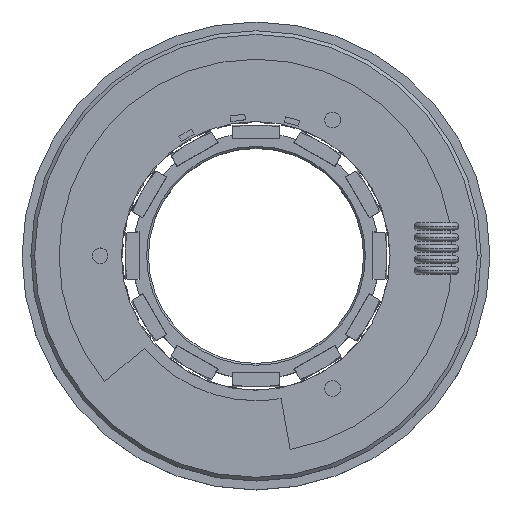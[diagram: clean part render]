
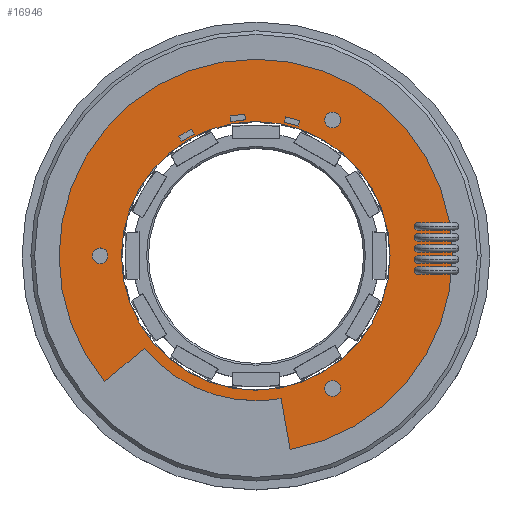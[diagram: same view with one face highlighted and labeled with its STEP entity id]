
A CAD part, top view. The second image highlights one B-rep face of the part: STEP entity #16946.
In plain terms, the highlighted planar face has unit normal (0, 0, 1) as drawn and (0, 1, 0) by its records, which use the part's own axes.
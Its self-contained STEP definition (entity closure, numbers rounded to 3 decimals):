
#16456=CARTESIAN_POINT('',(36.008,2.,-20.812));
#16457=DIRECTION('',(0.,-1.,0.));
#16458=DIRECTION('',(1.,0.,0.));
#16459=AXIS2_PLACEMENT_3D('',#16456,#16457,#16458);
#16461=CARTESIAN_POINT('',(36.008,2.,-20.812));
#16462=DIRECTION('',(0.,-1.,0.));
#16463=DIRECTION('',(-1.,0.,0.));
#16464=AXIS2_PLACEMENT_3D('',#16461,#16462,#16463);
#16466=CARTESIAN_POINT('',(-36.874,2.,-20.812));
#16467=DIRECTION('',(0.,-1.,0.));
#16468=DIRECTION('',(1.,0.,0.));
#16469=AXIS2_PLACEMENT_3D('',#16466,#16467,#16468);
#16471=CARTESIAN_POINT('',(-36.874,2.,-20.812));
#16472=DIRECTION('',(0.,-1.,0.));
#16473=DIRECTION('',(-1.,0.,0.));
#16474=AXIS2_PLACEMENT_3D('',#16471,#16472,#16473);
#16476=CARTESIAN_POINT('',(0.,2.,42.311));
#16477=DIRECTION('',(0.,-1.,0.));
#16478=DIRECTION('',(1.,0.,0.));
#16479=AXIS2_PLACEMENT_3D('',#16476,#16477,#16478);
#16481=CARTESIAN_POINT('',(0.,2.,42.311));
#16482=DIRECTION('',(0.,-1.,0.));
#16483=DIRECTION('',(-1.,0.,0.));
#16484=AXIS2_PLACEMENT_3D('',#16481,#16482,#16483);
#16486=CARTESIAN_POINT('',(0.,2.,0.074));
#16487=DIRECTION('',(0.,1.,0.));
#16488=DIRECTION('',(0.985,0.,-0.175));
#16489=AXIS2_PLACEMENT_3D('',#16486,#16487,#16488);
#16491=DIRECTION('',(0.985,0.,-0.175));
#16492=VECTOR('',#16491,14.079);
#16493=CARTESIAN_POINT('',(38.69,2.,-6.803));
#16494=LINE('',#16493,#16492);
#16495=CARTESIAN_POINT('',(0.,2.,0.074));
#16496=DIRECTION('',(0.,1.,0.));
#16497=DIRECTION('',(1.,0.,-0.002));
#16498=AXIS2_PLACEMENT_3D('',#16495,#16496,#16497);
#16500=CARTESIAN_POINT('',(0.,2.,0.074));
#16501=DIRECTION('',(0.,1.,0.));
#16502=DIRECTION('',(0.639,0.,0.769));
#16503=AXIS2_PLACEMENT_3D('',#16500,#16501,#16502);
#16505=DIRECTION('',(-0.639,0.,-0.769));
#16506=VECTOR('',#16505,14.079);
#16507=CARTESIAN_POINT('',(34.126,2.,41.114));
#16508=LINE('',#16507,#16506);
#16509=CARTESIAN_POINT('',(0.,2.,0.074));
#16510=DIRECTION('',(0.,-1.,0.));
#16511=DIRECTION('',(1.,0.,0.));
#16512=AXIS2_PLACEMENT_3D('',#16509,#16510,#16511);
#16514=CARTESIAN_POINT('',(0.,2.,0.074));
#16515=DIRECTION('',(0.,-1.,0.));
#16516=DIRECTION('',(-1.,0.,0.));
#16517=AXIS2_PLACEMENT_3D('',#16514,#16515,#16516);
#16519=DIRECTION('',(0.5,0.,0.866));
#16520=VECTOR('',#16519,4.);
#16521=CARTESIAN_POINT('',(-34.385,2.,17.543));
#16522=LINE('',#16521,#16520);
#16523=DIRECTION('',(0.866,0.,-0.5));
#16524=VECTOR('',#16523,1.55);
#16525=CARTESIAN_POINT('',(-32.385,2.,21.007));
#16526=LINE('',#16525,#16524);
#16527=DIRECTION('',(-0.5,0.,-0.866));
#16528=VECTOR('',#16527,4.);
#16529=CARTESIAN_POINT('',(-31.043,2.,20.232));
#16530=LINE('',#16529,#16528);
#16531=DIRECTION('',(-0.866,0.,0.5));
#16532=VECTOR('',#16531,1.55);
#16533=CARTESIAN_POINT('',(-33.043,2.,16.768));
#16534=LINE('',#16533,#16532);
#16535=DIRECTION('',(0.131,0.,0.991));
#16536=VECTOR('',#16535,4.);
#16537=CARTESIAN_POINT('',(-38.481,2.,3.049));
#16538=LINE('',#16537,#16536);
#16539=DIRECTION('',(0.991,0.,-0.131));
#16540=VECTOR('',#16539,1.55);
#16541=CARTESIAN_POINT('',(-37.959,2.,7.015));
#16542=LINE('',#16541,#16540);
#16543=DIRECTION('',(-0.131,0.,-0.991));
#16544=VECTOR('',#16543,4.);
#16545=CARTESIAN_POINT('',(-36.422,2.,6.812));
#16546=LINE('',#16545,#16544);
#16547=DIRECTION('',(-0.991,0.,0.131));
#16548=VECTOR('',#16547,1.55);
#16549=CARTESIAN_POINT('',(-36.945,2.,2.847));
#16550=LINE('',#16549,#16548);
#16551=DIRECTION('',(-0.259,0.,0.966));
#16552=VECTOR('',#16551,4.);
#16553=CARTESIAN_POINT('',(-36.719,2.,-11.909));
#16554=LINE('',#16553,#16552);
#16555=DIRECTION('',(0.966,0.,0.259));
#16556=VECTOR('',#16555,1.55);
#16557=CARTESIAN_POINT('',(-37.754,2.,-8.046));
#16558=LINE('',#16557,#16556);
#16559=DIRECTION('',(0.259,0.,-0.966));
#16560=VECTOR('',#16559,4.);
#16561=CARTESIAN_POINT('',(-36.257,2.,-7.644));
#16562=LINE('',#16561,#16560);
#16563=DIRECTION('',(-0.966,0.,-0.259));
#16564=VECTOR('',#16563,1.55);
#16565=CARTESIAN_POINT('',(-35.222,2.,-11.508));
#16566=LINE('',#16565,#16564);
#16733=CARTESIAN_POINT('',(38.143,2.,-20.812));
#16734=CARTESIAN_POINT('',(33.873,2.,-20.812));
#16735=VERTEX_POINT('',#16733);
#16736=VERTEX_POINT('',#16734);
#16737=CARTESIAN_POINT('',(-34.739,2.,-20.812));
#16738=CARTESIAN_POINT('',(-39.009,2.,-20.812));
#16739=VERTEX_POINT('',#16737);
#16740=VERTEX_POINT('',#16738);
#16741=CARTESIAN_POINT('',(2.135,2.,42.311));
#16742=CARTESIAN_POINT('',(-2.135,2.,42.311));
#16743=VERTEX_POINT('',#16741);
#16744=VERTEX_POINT('',#16742);
#16745=CARTESIAN_POINT('',(52.551,2.,-9.267));
#16746=CARTESIAN_POINT('',(34.126,2.,41.114));
#16747=VERTEX_POINT('',#16745);
#16748=VERTEX_POINT('',#16746);
#16749=CARTESIAN_POINT('',(25.124,2.,30.289));
#16750=VERTEX_POINT('',#16749);
#16751=CARTESIAN_POINT('',(39.296,2.,0.));
#16752=VERTEX_POINT('',#16751);
#16753=CARTESIAN_POINT('',(38.69,2.,-6.803));
#16754=VERTEX_POINT('',#16753);
#16755=CARTESIAN_POINT('',(36.457,2.,0.074));
#16756=CARTESIAN_POINT('',(-36.457,2.,0.074));
#16757=VERTEX_POINT('',#16755);
#16758=VERTEX_POINT('',#16756);
#16767=CARTESIAN_POINT('',(-34.385,2.,17.543));
#16768=CARTESIAN_POINT('',(-32.385,2.,21.007));
#16769=VERTEX_POINT('',#16767);
#16770=VERTEX_POINT('',#16768);
#16771=CARTESIAN_POINT('',(-31.043,2.,20.232));
#16772=VERTEX_POINT('',#16771);
#16773=CARTESIAN_POINT('',(-33.043,2.,16.768));
#16774=VERTEX_POINT('',#16773);
#16783=CARTESIAN_POINT('',(-38.481,2.,3.049));
#16784=CARTESIAN_POINT('',(-37.959,2.,7.015));
#16785=VERTEX_POINT('',#16783);
#16786=VERTEX_POINT('',#16784);
#16787=CARTESIAN_POINT('',(-36.422,2.,6.812));
#16788=VERTEX_POINT('',#16787);
#16789=CARTESIAN_POINT('',(-36.945,2.,2.847));
#16790=VERTEX_POINT('',#16789);
#16799=CARTESIAN_POINT('',(-36.719,2.,-11.909));
#16800=CARTESIAN_POINT('',(-37.754,2.,-8.046));
#16801=VERTEX_POINT('',#16799);
#16802=VERTEX_POINT('',#16800);
#16803=CARTESIAN_POINT('',(-36.257,2.,-7.644));
#16804=VERTEX_POINT('',#16803);
#16805=CARTESIAN_POINT('',(-35.222,2.,-11.508));
#16806=VERTEX_POINT('',#16805);
#16877=CARTESIAN_POINT('',(0.,2.,0.));
#16878=DIRECTION('',(0.,1.,0.));
#16879=DIRECTION('',(1.,0.,0.));
#16880=AXIS2_PLACEMENT_3D('',#16877,#16878,#16879);
#16881=PLANE('',#16880);
#16883=ORIENTED_EDGE('',*,*,#16882,.F.);
#16885=ORIENTED_EDGE('',*,*,#16884,.F.);
#16887=ORIENTED_EDGE('',*,*,#16886,.F.);
#16889=ORIENTED_EDGE('',*,*,#16888,.F.);
#16891=ORIENTED_EDGE('',*,*,#16890,.F.);
#16892=EDGE_LOOP('',(#16883,#16885,#16887,#16889,#16891));
#16893=FACE_OUTER_BOUND('',#16892,.F.);
#16894=ORIENTED_EDGE('',*,*,#16857,.F.);
#16895=ORIENTED_EDGE('',*,*,#16871,.F.);
#16896=EDGE_LOOP('',(#16894,#16895));
#16897=FACE_BOUND('',#16896,.F.);
#16899=ORIENTED_EDGE('',*,*,#16898,.F.);
#16901=ORIENTED_EDGE('',*,*,#16900,.F.);
#16902=EDGE_LOOP('',(#16899,#16901));
#16903=FACE_BOUND('',#16902,.F.);
#16905=ORIENTED_EDGE('',*,*,#16904,.F.);
#16907=ORIENTED_EDGE('',*,*,#16906,.F.);
#16908=EDGE_LOOP('',(#16905,#16907));
#16909=FACE_BOUND('',#16908,.F.);
#16911=ORIENTED_EDGE('',*,*,#16910,.F.);
#16913=ORIENTED_EDGE('',*,*,#16912,.F.);
#16914=EDGE_LOOP('',(#16911,#16913));
#16915=FACE_BOUND('',#16914,.F.);
#16917=ORIENTED_EDGE('',*,*,#16916,.T.);
#16919=ORIENTED_EDGE('',*,*,#16918,.T.);
#16921=ORIENTED_EDGE('',*,*,#16920,.T.);
#16923=ORIENTED_EDGE('',*,*,#16922,.T.);
#16924=EDGE_LOOP('',(#16917,#16919,#16921,#16923));
#16925=FACE_BOUND('',#16924,.F.);
#16927=ORIENTED_EDGE('',*,*,#16926,.T.);
#16929=ORIENTED_EDGE('',*,*,#16928,.T.);
#16931=ORIENTED_EDGE('',*,*,#16930,.T.);
#16933=ORIENTED_EDGE('',*,*,#16932,.T.);
#16934=EDGE_LOOP('',(#16927,#16929,#16931,#16933));
#16935=FACE_BOUND('',#16934,.F.);
#16937=ORIENTED_EDGE('',*,*,#16936,.T.);
#16939=ORIENTED_EDGE('',*,*,#16938,.T.);
#16941=ORIENTED_EDGE('',*,*,#16940,.T.);
#16943=ORIENTED_EDGE('',*,*,#16942,.T.);
#16944=EDGE_LOOP('',(#16937,#16939,#16941,#16943));
#16945=FACE_BOUND('',#16944,.F.);
#16946=ADVANCED_FACE('',(#16893,#16897,#16903,#16909,#16915,#16925,#16935,
#16945),#16881,.T.);
#16460=CIRCLE('',#16459,2.135);
#16465=CIRCLE('',#16464,2.135);
#16470=CIRCLE('',#16469,2.135);
#16475=CIRCLE('',#16474,2.135);
#16480=CIRCLE('',#16479,2.135);
#16485=CIRCLE('',#16484,2.135);
#16490=CIRCLE('',#16489,53.375);
#16499=CIRCLE('',#16498,39.296);
#16504=CIRCLE('',#16503,39.296);
#16513=CIRCLE('',#16512,36.457);
#16518=CIRCLE('',#16517,36.457);
#16857=EDGE_CURVE('',#16735,#16736,#16460,.T.);
#16871=EDGE_CURVE('',#16736,#16735,#16465,.T.);
#16882=EDGE_CURVE('',#16747,#16748,#16490,.T.);
#16884=EDGE_CURVE('',#16754,#16747,#16494,.T.);
#16886=EDGE_CURVE('',#16752,#16754,#16499,.T.);
#16888=EDGE_CURVE('',#16750,#16752,#16504,.T.);
#16890=EDGE_CURVE('',#16748,#16750,#16508,.T.);
#16898=EDGE_CURVE('',#16739,#16740,#16470,.T.);
#16900=EDGE_CURVE('',#16740,#16739,#16475,.T.);
#16904=EDGE_CURVE('',#16743,#16744,#16480,.T.);
#16906=EDGE_CURVE('',#16744,#16743,#16485,.T.);
#16910=EDGE_CURVE('',#16757,#16758,#16513,.T.);
#16912=EDGE_CURVE('',#16758,#16757,#16518,.T.);
#16916=EDGE_CURVE('',#16769,#16770,#16522,.T.);
#16918=EDGE_CURVE('',#16770,#16772,#16526,.T.);
#16920=EDGE_CURVE('',#16772,#16774,#16530,.T.);
#16922=EDGE_CURVE('',#16774,#16769,#16534,.T.);
#16926=EDGE_CURVE('',#16785,#16786,#16538,.T.);
#16928=EDGE_CURVE('',#16786,#16788,#16542,.T.);
#16930=EDGE_CURVE('',#16788,#16790,#16546,.T.);
#16932=EDGE_CURVE('',#16790,#16785,#16550,.T.);
#16936=EDGE_CURVE('',#16801,#16802,#16554,.T.);
#16938=EDGE_CURVE('',#16802,#16804,#16558,.T.);
#16940=EDGE_CURVE('',#16804,#16806,#16562,.T.);
#16942=EDGE_CURVE('',#16806,#16801,#16566,.T.);
